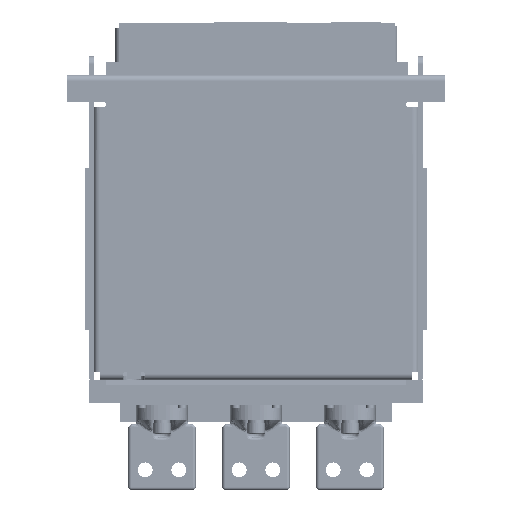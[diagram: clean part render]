
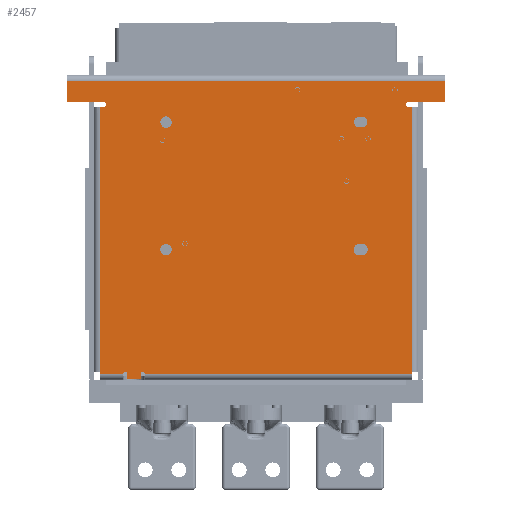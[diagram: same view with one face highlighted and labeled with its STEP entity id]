
A CAD part, front view. The second image highlights one B-rep face of the part: STEP entity #2457.
In plain terms, the highlighted planar face has unit normal (0, -1, 0).
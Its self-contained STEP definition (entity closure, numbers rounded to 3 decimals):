
#27=CARTESIAN_POINT('',(-67.,0.,-35.));
#28=DIRECTION('',(0.,1.,0.));
#29=DIRECTION('',(1.,0.,0.));
#30=AXIS2_PLACEMENT_3D('',#27,#28,#29);
#36=CARTESIAN_POINT('',(-67.,0.,-35.));
#37=DIRECTION('',(0.,1.,0.));
#38=DIRECTION('',(-1.,0.,0.));
#39=AXIS2_PLACEMENT_3D('',#36,#37,#38);
#44=CARTESIAN_POINT('',(-67.,0.,-130.));
#45=DIRECTION('',(0.,1.,0.));
#46=DIRECTION('',(1.,0.,0.));
#47=AXIS2_PLACEMENT_3D('',#44,#45,#46);
#52=CARTESIAN_POINT('',(-67.,0.,-130.));
#53=DIRECTION('',(0.,1.,0.));
#54=DIRECTION('',(-1.,0.,0.));
#55=AXIS2_PLACEMENT_3D('',#52,#53,#54);
#60=CARTESIAN_POINT('',(77.,0.,-130.));
#61=DIRECTION('',(0.,1.,0.));
#62=DIRECTION('',(0.,0.,-1.));
#63=AXIS2_PLACEMENT_3D('',#60,#61,#62);
#68=DIRECTION('',(-1.,0.,0.));
#69=VECTOR('',#68,2.);
#70=CARTESIAN_POINT('',(79.,0.,-134.25));
#71=LINE('',#70,#69);
#75=CARTESIAN_POINT('',(79.,0.,-130.));
#76=DIRECTION('',(0.,1.,0.));
#77=DIRECTION('',(0.,0.,1.));
#78=AXIS2_PLACEMENT_3D('',#75,#76,#77);
#83=DIRECTION('',(1.,0.,0.));
#84=VECTOR('',#83,2.);
#85=CARTESIAN_POINT('',(77.,0.,-125.75));
#86=LINE('',#85,#84);
#90=DIRECTION('',(-1.,0.,0.));
#91=VECTOR('',#90,2.);
#92=CARTESIAN_POINT('',(79.,0.,-39.));
#93=LINE('',#92,#91);
#97=CARTESIAN_POINT('',(79.,0.,-35.));
#98=DIRECTION('',(0.,1.,0.));
#99=DIRECTION('',(0.,0.,1.));
#100=AXIS2_PLACEMENT_3D('',#97,#98,#99);
#105=DIRECTION('',(1.,0.,0.));
#106=VECTOR('',#105,2.);
#107=CARTESIAN_POINT('',(77.,0.,-31.));
#108=LINE('',#107,#106);
#112=CARTESIAN_POINT('',(77.,0.,-35.));
#113=DIRECTION('',(0.,1.,0.));
#114=DIRECTION('',(0.,0.,-1.));
#115=AXIS2_PLACEMENT_3D('',#112,#113,#114);
#120=DIRECTION('',(0.,0.,-1.));
#121=VECTOR('',#120,15.5);
#122=CARTESIAN_POINT('',(141.,0.,-4.5));
#123=LINE('',#122,#121);
#127=CARTESIAN_POINT('',(113.5,0.,-22.));
#128=DIRECTION('',(0.,1.,0.));
#129=DIRECTION('',(0.,0.,-1.));
#130=AXIS2_PLACEMENT_3D('',#127,#128,#129);
#135=DIRECTION('',(-1.,0.,0.));
#136=VECTOR('',#135,3.);
#137=CARTESIAN_POINT('',(116.5,0.,-24.));
#138=LINE('',#137,#136);
#142=DIRECTION('',(0.,0.,1.));
#143=VECTOR('',#142,197.382);
#144=CARTESIAN_POINT('',(116.5,0.,-221.382));
#145=LINE('',#144,#143);
#149=CARTESIAN_POINT('',(117.5,0.,-222.5));
#150=DIRECTION('',(0.,1.,0.));
#151=DIRECTION('',(-1.,0.,0.));
#152=AXIS2_PLACEMENT_3D('',#149,#150,#151);
#157=DIRECTION('',(1.,0.,0.));
#158=VECTOR('',#157,199.);
#159=CARTESIAN_POINT('',(-83.,0.,-222.5));
#160=LINE('',#159,#158);
#164=CARTESIAN_POINT('',(-84.5,0.,-222.5));
#165=DIRECTION('',(0.,1.,0.));
#166=DIRECTION('',(-1.,0.,0.));
#167=AXIS2_PLACEMENT_3D('',#164,#165,#166);
#172=DIRECTION('',(0.,0.,1.));
#173=VECTOR('',#172,3.5);
#174=CARTESIAN_POINT('',(-86.,0.,-226.));
#175=LINE('',#174,#173);
#179=DIRECTION('',(1.,0.,0.));
#180=VECTOR('',#179,10.);
#181=CARTESIAN_POINT('',(-96.,0.,-226.));
#182=LINE('',#181,#180);
#186=DIRECTION('',(0.,0.,-1.));
#187=VECTOR('',#186,3.5);
#188=CARTESIAN_POINT('',(-96.,0.,-222.5));
#189=LINE('',#188,#187);
#193=CARTESIAN_POINT('',(-97.5,0.,-222.5));
#194=DIRECTION('',(0.,1.,0.));
#195=DIRECTION('',(-1.,0.,0.));
#196=AXIS2_PLACEMENT_3D('',#193,#194,#195);
#201=DIRECTION('',(1.,0.,0.));
#202=VECTOR('',#201,17.);
#203=CARTESIAN_POINT('',(-116.,0.,-222.5));
#204=LINE('',#203,#202);
#208=CARTESIAN_POINT('',(-117.5,0.,-222.5));
#209=DIRECTION('',(0.,1.,0.));
#210=DIRECTION('',(0.667,0.,0.745));
#211=AXIS2_PLACEMENT_3D('',#208,#209,#210);
#216=DIRECTION('',(0.,0.,-1.));
#217=VECTOR('',#216,197.382);
#218=CARTESIAN_POINT('',(-116.5,0.,-24.));
#219=LINE('',#218,#217);
#223=DIRECTION('',(-1.,0.,0.));
#224=VECTOR('',#223,3.);
#225=CARTESIAN_POINT('',(-113.5,0.,-24.));
#226=LINE('',#225,#224);
#230=CARTESIAN_POINT('',(-113.5,0.,-22.));
#231=DIRECTION('',(0.,1.,0.));
#232=DIRECTION('',(0.,0.,1.));
#233=AXIS2_PLACEMENT_3D('',#230,#231,#232);
#238=DIRECTION('',(0.,0.,1.));
#239=VECTOR('',#238,15.5);
#240=CARTESIAN_POINT('',(-141.,0.,-20.));
#241=LINE('',#240,#239);
#997=DIRECTION('',(-1.,0.,0.));
#998=VECTOR('',#997,282.);
#999=CARTESIAN_POINT('',(141.,0.,-4.5));
#1000=LINE('',#999,#998);
#1153=DIRECTION('',(1.,0.,0.));
#1154=VECTOR('',#1153,27.5);
#1155=CARTESIAN_POINT('',(-141.,0.,-20.));
#1156=LINE('',#1155,#1154);
#1203=CARTESIAN_POINT('',(-116.5,0.,-221.382));
#1332=CARTESIAN_POINT('',(116.5,0.,-221.382));
#1387=DIRECTION('',(1.,0.,0.));
#1388=VECTOR('',#1387,27.5);
#1389=CARTESIAN_POINT('',(113.5,0.,-20.));
#1390=LINE('',#1389,#1388);
#2022=CARTESIAN_POINT('',(141.,0.,-20.));
#2024=VERTEX_POINT('',#2022);
#2026=CARTESIAN_POINT('',(-141.,0.,-20.));
#2028=VERTEX_POINT('',#2026);
#2038=CARTESIAN_POINT('',(-113.5,0.,-20.));
#2039=VERTEX_POINT('',#2038);
#2040=CARTESIAN_POINT('',(-113.5,0.,-24.));
#2041=VERTEX_POINT('',#2040);
#2042=CARTESIAN_POINT('',(113.5,0.,-24.));
#2043=VERTEX_POINT('',#2042);
#2044=CARTESIAN_POINT('',(113.5,0.,-20.));
#2045=VERTEX_POINT('',#2044);
#2062=CARTESIAN_POINT('',(-62.75,0.,-35.));
#2063=CARTESIAN_POINT('',(-71.25,0.,-35.));
#2064=VERTEX_POINT('',#2062);
#2065=VERTEX_POINT('',#2063);
#2066=CARTESIAN_POINT('',(-62.75,0.,-130.));
#2067=CARTESIAN_POINT('',(-71.25,0.,-130.));
#2068=VERTEX_POINT('',#2066);
#2069=VERTEX_POINT('',#2067);
#2070=CARTESIAN_POINT('',(77.,0.,-134.25));
#2071=CARTESIAN_POINT('',(77.,0.,-125.75));
#2072=VERTEX_POINT('',#2070);
#2073=VERTEX_POINT('',#2071);
#2074=CARTESIAN_POINT('',(79.,0.,-125.75));
#2075=VERTEX_POINT('',#2074);
#2076=CARTESIAN_POINT('',(79.,0.,-134.25));
#2077=VERTEX_POINT('',#2076);
#2078=CARTESIAN_POINT('',(79.,0.,-39.));
#2079=CARTESIAN_POINT('',(77.,0.,-39.));
#2080=VERTEX_POINT('',#2078);
#2081=VERTEX_POINT('',#2079);
#2082=CARTESIAN_POINT('',(77.,0.,-31.));
#2083=VERTEX_POINT('',#2082);
#2084=CARTESIAN_POINT('',(79.,0.,-31.));
#2085=VERTEX_POINT('',#2084);
#2278=CARTESIAN_POINT('',(-96.,0.,-226.));
#2279=CARTESIAN_POINT('',(-86.,0.,-226.));
#2280=VERTEX_POINT('',#2278);
#2281=VERTEX_POINT('',#2279);
#2282=CARTESIAN_POINT('',(-86.,0.,-222.5));
#2283=VERTEX_POINT('',#2282);
#2284=CARTESIAN_POINT('',(-96.,0.,-222.5));
#2285=VERTEX_POINT('',#2284);
#2337=VERTEX_POINT('',#1203);
#2343=CARTESIAN_POINT('',(-116.5,0.,-24.));
#2344=VERTEX_POINT('',#2343);
#2345=CARTESIAN_POINT('',(116.,0.,-222.5));
#2347=VERTEX_POINT('',#2345);
#2351=CARTESIAN_POINT('',(-83.,0.,-222.5));
#2352=VERTEX_POINT('',#2351);
#2353=CARTESIAN_POINT('',(116.5,0.,-24.));
#2355=VERTEX_POINT('',#2353);
#2361=VERTEX_POINT('',#1332);
#2362=CARTESIAN_POINT('',(-141.,0.,-4.5));
#2364=VERTEX_POINT('',#2362);
#2367=CARTESIAN_POINT('',(141.,0.,-4.5));
#2369=VERTEX_POINT('',#2367);
#2370=CARTESIAN_POINT('',(-116.,0.,-222.5));
#2371=VERTEX_POINT('',#2370);
#2372=CARTESIAN_POINT('',(-99.,0.,-222.5));
#2374=VERTEX_POINT('',#2372);
#2378=CARTESIAN_POINT('',(0.,0.,0.));
#2379=DIRECTION('',(0.,1.,0.));
#2380=DIRECTION('',(1.,0.,0.));
#2381=AXIS2_PLACEMENT_3D('',#2378,#2379,#2380);
#2382=PLANE('',#2381);
#2384=ORIENTED_EDGE('',*,*,#2383,.F.);
#2386=ORIENTED_EDGE('',*,*,#2385,.T.);
#2388=ORIENTED_EDGE('',*,*,#2387,.F.);
#2390=ORIENTED_EDGE('',*,*,#2389,.F.);
#2392=ORIENTED_EDGE('',*,*,#2391,.F.);
#2394=ORIENTED_EDGE('',*,*,#2393,.F.);
#2396=ORIENTED_EDGE('',*,*,#2395,.F.);
#2398=ORIENTED_EDGE('',*,*,#2397,.F.);
#2400=ORIENTED_EDGE('',*,*,#2399,.F.);
#2402=ORIENTED_EDGE('',*,*,#2401,.F.);
#2404=ORIENTED_EDGE('',*,*,#2403,.F.);
#2406=ORIENTED_EDGE('',*,*,#2405,.F.);
#2408=ORIENTED_EDGE('',*,*,#2407,.F.);
#2410=ORIENTED_EDGE('',*,*,#2409,.F.);
#2412=ORIENTED_EDGE('',*,*,#2411,.F.);
#2414=ORIENTED_EDGE('',*,*,#2413,.F.);
#2416=ORIENTED_EDGE('',*,*,#2415,.F.);
#2418=ORIENTED_EDGE('',*,*,#2417,.F.);
#2420=ORIENTED_EDGE('',*,*,#2419,.F.);
#2422=ORIENTED_EDGE('',*,*,#2421,.T.);
#2423=EDGE_LOOP('',(#2384,#2386,#2388,#2390,#2392,#2394,#2396,#2398,#2400,#2402,
#2404,#2406,#2408,#2410,#2412,#2414,#2416,#2418,#2420,#2422));
#2424=FACE_OUTER_BOUND('',#2423,.F.);
#2426=ORIENTED_EDGE('',*,*,#2425,.F.);
#2428=ORIENTED_EDGE('',*,*,#2427,.F.);
#2429=EDGE_LOOP('',(#2426,#2428));
#2430=FACE_BOUND('',#2429,.F.);
#2432=ORIENTED_EDGE('',*,*,#2431,.F.);
#2434=ORIENTED_EDGE('',*,*,#2433,.F.);
#2436=ORIENTED_EDGE('',*,*,#2435,.F.);
#2438=ORIENTED_EDGE('',*,*,#2437,.F.);
#2439=EDGE_LOOP('',(#2432,#2434,#2436,#2438));
#2440=FACE_BOUND('',#2439,.F.);
#2442=ORIENTED_EDGE('',*,*,#2441,.F.);
#2444=ORIENTED_EDGE('',*,*,#2443,.F.);
#2446=ORIENTED_EDGE('',*,*,#2445,.F.);
#2448=ORIENTED_EDGE('',*,*,#2447,.F.);
#2449=EDGE_LOOP('',(#2442,#2444,#2446,#2448));
#2450=FACE_BOUND('',#2449,.F.);
#2452=ORIENTED_EDGE('',*,*,#2451,.F.);
#2454=ORIENTED_EDGE('',*,*,#2453,.F.);
#2455=EDGE_LOOP('',(#2452,#2454));
#2456=FACE_BOUND('',#2455,.F.);
#2457=ADVANCED_FACE('',(#2424,#2430,#2440,#2450,#2456),#2382,.F.);
#31=CIRCLE('',#30,4.25);
#40=CIRCLE('',#39,4.25);
#48=CIRCLE('',#47,4.25);
#56=CIRCLE('',#55,4.25);
#64=CIRCLE('',#63,4.25);
#79=CIRCLE('',#78,4.25);
#101=CIRCLE('',#100,4.);
#116=CIRCLE('',#115,4.);
#131=CIRCLE('',#130,2.);
#153=CIRCLE('',#152,1.5);
#168=CIRCLE('',#167,1.5);
#197=CIRCLE('',#196,1.5);
#212=CIRCLE('',#211,1.5);
#234=CIRCLE('',#233,2.);
#2383=EDGE_CURVE('',#2369,#2364,#1000,.T.);
#2385=EDGE_CURVE('',#2369,#2024,#123,.T.);
#2387=EDGE_CURVE('',#2045,#2024,#1390,.T.);
#2389=EDGE_CURVE('',#2043,#2045,#131,.T.);
#2391=EDGE_CURVE('',#2355,#2043,#138,.T.);
#2393=EDGE_CURVE('',#2361,#2355,#145,.T.);
#2395=EDGE_CURVE('',#2347,#2361,#153,.T.);
#2397=EDGE_CURVE('',#2352,#2347,#160,.T.);
#2399=EDGE_CURVE('',#2283,#2352,#168,.T.);
#2401=EDGE_CURVE('',#2281,#2283,#175,.T.);
#2403=EDGE_CURVE('',#2280,#2281,#182,.T.);
#2405=EDGE_CURVE('',#2285,#2280,#189,.T.);
#2407=EDGE_CURVE('',#2374,#2285,#197,.T.);
#2409=EDGE_CURVE('',#2371,#2374,#204,.T.);
#2411=EDGE_CURVE('',#2337,#2371,#212,.T.);
#2413=EDGE_CURVE('',#2344,#2337,#219,.T.);
#2415=EDGE_CURVE('',#2041,#2344,#226,.T.);
#2417=EDGE_CURVE('',#2039,#2041,#234,.T.);
#2419=EDGE_CURVE('',#2028,#2039,#1156,.T.);
#2421=EDGE_CURVE('',#2028,#2364,#241,.T.);
#2425=EDGE_CURVE('',#2068,#2069,#48,.T.);
#2427=EDGE_CURVE('',#2069,#2068,#56,.T.);
#2431=EDGE_CURVE('',#2072,#2073,#64,.T.);
#2433=EDGE_CURVE('',#2077,#2072,#71,.T.);
#2435=EDGE_CURVE('',#2075,#2077,#79,.T.);
#2437=EDGE_CURVE('',#2073,#2075,#86,.T.);
#2441=EDGE_CURVE('',#2080,#2081,#93,.T.);
#2443=EDGE_CURVE('',#2085,#2080,#101,.T.);
#2445=EDGE_CURVE('',#2083,#2085,#108,.T.);
#2447=EDGE_CURVE('',#2081,#2083,#116,.T.);
#2451=EDGE_CURVE('',#2064,#2065,#31,.T.);
#2453=EDGE_CURVE('',#2065,#2064,#40,.T.);
